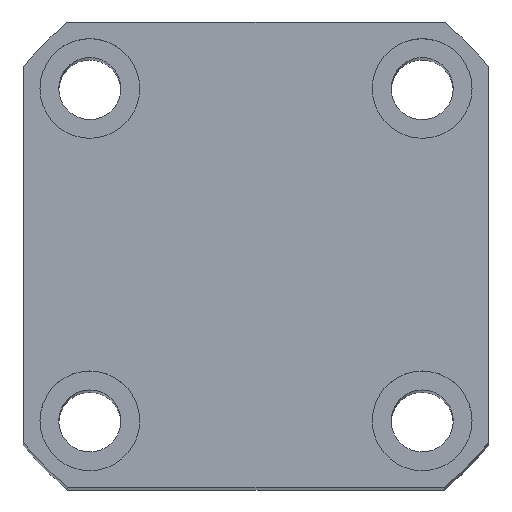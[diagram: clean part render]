
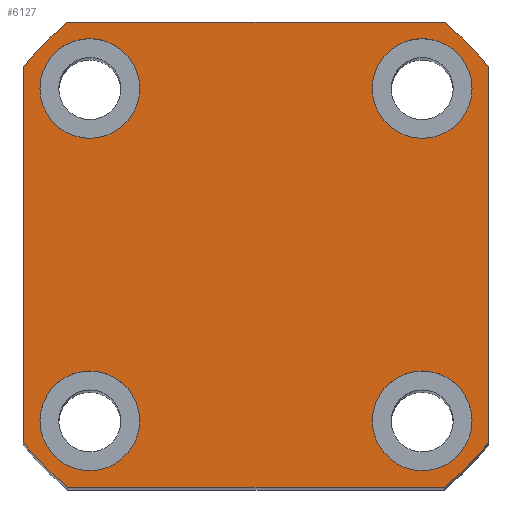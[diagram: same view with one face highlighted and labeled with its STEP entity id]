
A CAD part, top view. The second image highlights one B-rep face of the part: STEP entity #6127.
In plain terms, the highlighted planar face has unit normal (0, 0, 1).
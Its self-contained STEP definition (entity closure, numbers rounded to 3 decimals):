
#198 = DIRECTION ( 'NONE',  ( 0., 0., 1. ) ) ;
#214 = ORIENTED_EDGE ( 'NONE', *, *, #684, .F. ) ;
#254 = EDGE_CURVE ( 'NONE', #4756, #2983, #5963, .T. ) ;
#262 = CARTESIAN_POINT ( 'NONE',  ( -16.971, -21., 138. ) ) ;
#276 = CARTESIAN_POINT ( 'NONE',  ( 21., 21., 138. ) ) ;
#281 = DIRECTION ( 'NONE',  ( 0., 0., 1. ) ) ;
#283 = ORIENTED_EDGE ( 'NONE', *, *, #8207, .T. ) ;
#431 = DIRECTION ( 'NONE',  ( 1., 0., 0. ) ) ;
#552 = VERTEX_POINT ( 'NONE', #715 ) ;
#580 = VERTEX_POINT ( 'NONE', #1783 ) ;
#612 = EDGE_LOOP ( 'NONE', ( #6608, #5303 ) ) ;
#657 = CARTESIAN_POINT ( 'NONE',  ( 0., 0., 138. ) ) ;
#663 = AXIS2_PLACEMENT_3D ( 'NONE', #7666, #2790, #8510 ) ;
#684 = EDGE_CURVE ( 'NONE', #7606, #2746, #6354, .T. ) ;
#715 = CARTESIAN_POINT ( 'NONE',  ( -19.5, -14.998, 138. ) ) ;
#719 = VECTOR ( 'NONE', #1143, 1000. ) ;
#738 = LINE ( 'NONE', #4373, #7275 ) ;
#845 = ORIENTED_EDGE ( 'NONE', *, *, #10413, .T. ) ;
#881 = EDGE_CURVE ( 'NONE', #2983, #5904, #3893, .T. ) ;
#890 = DIRECTION ( 'NONE',  ( 0., 0., 1. ) ) ;
#930 = CARTESIAN_POINT ( 'NONE',  ( 15., -14.998, 138. ) ) ;
#964 = VERTEX_POINT ( 'NONE', #9354 ) ;
#970 = EDGE_CURVE ( 'NONE', #5063, #10012, #7488, .T. ) ;
#991 = DIRECTION ( 'NONE',  ( 1., 0., 0. ) ) ;
#1027 = DIRECTION ( 'NONE',  ( 0., 0., 1. ) ) ;
#1066 = CARTESIAN_POINT ( 'NONE',  ( 0., 0., 138. ) ) ;
#1143 = DIRECTION ( 'NONE',  ( 0., -1., 0. ) ) ;
#1180 = EDGE_CURVE ( 'NONE', #580, #552, #6717, .T. ) ;
#1245 = AXIS2_PLACEMENT_3D ( 'NONE', #2228, #7968, #3089 ) ;
#1483 = DIRECTION ( 'NONE',  ( 1., 0., 0. ) ) ;
#1534 = EDGE_LOOP ( 'NONE', ( #9279, #9903 ) ) ;
#1545 = CARTESIAN_POINT ( 'NONE',  ( -15., -14.998, 138. ) ) ;
#1728 = CARTESIAN_POINT ( 'NONE',  ( -19.5, 15.002, 138. ) ) ;
#1775 = DIRECTION ( 'NONE',  ( 1., 0., 0. ) ) ;
#1783 = CARTESIAN_POINT ( 'NONE',  ( -10.5, -14.998, 138. ) ) ;
#1832 = CIRCLE ( 'NONE', #6885, 4.5 ) ;
#1911 = DIRECTION ( 'NONE',  ( 0., 0., 1. ) ) ;
#1944 = CARTESIAN_POINT ( 'NONE',  ( 21., -16.971, 138. ) ) ;
#1951 = CARTESIAN_POINT ( 'NONE',  ( 15., 15., 138. ) ) ;
#1962 = EDGE_CURVE ( 'NONE', #3785, #964, #738, .T. ) ;
#2014 = EDGE_CURVE ( 'NONE', #9640, #2610, #2683, .T. ) ;
#2051 = CARTESIAN_POINT ( 'NONE',  ( 16.971, -21., 138. ) ) ;
#2089 = FACE_BOUND ( 'NONE', #10204, .T. ) ;
#2228 = CARTESIAN_POINT ( 'NONE',  ( -15., 15.002, 138. ) ) ;
#2382 = DIRECTION ( 'NONE',  ( 1., 0., 0. ) ) ;
#2431 = AXIS2_PLACEMENT_3D ( 'NONE', #1545, #3828, #5696 ) ;
#2441 = DIRECTION ( 'NONE',  ( 1., 0., 0. ) ) ;
#2467 = DIRECTION ( 'NONE',  ( 0., 0., 1. ) ) ;
#2519 = CARTESIAN_POINT ( 'NONE',  ( 0., 0., 138. ) ) ;
#2532 = CIRCLE ( 'NONE', #2533, 4.5 ) ;
#2533 = AXIS2_PLACEMENT_3D ( 'NONE', #5081, #198, #5924 ) ;
#2610 = VERTEX_POINT ( 'NONE', #262 ) ;
#2632 = CIRCLE ( 'NONE', #1245, 4.5 ) ;
#2683 = CIRCLE ( 'NONE', #6633, 27. ) ;
#2713 = AXIS2_PLACEMENT_3D ( 'NONE', #657, #6397, #1483 ) ;
#2739 = LINE ( 'NONE', #9840, #7687 ) ;
#2746 = VERTEX_POINT ( 'NONE', #5909 ) ;
#2790 = DIRECTION ( 'NONE',  ( 0., 0., 1. ) ) ;
#2983 = VERTEX_POINT ( 'NONE', #1944 ) ;
#3089 = DIRECTION ( 'NONE',  ( 1., 0., 0. ) ) ;
#3265 = CARTESIAN_POINT ( 'NONE',  ( 19.5, 15., 138. ) ) ;
#3503 = DIRECTION ( 'NONE',  ( 0., 1., 0. ) ) ;
#3549 = CIRCLE ( 'NONE', #2713, 27. ) ;
#3652 = EDGE_CURVE ( 'NONE', #2746, #7606, #2532, .T. ) ;
#3691 = EDGE_CURVE ( 'NONE', #4900, #8283, #8569, .T. ) ;
#3785 = VERTEX_POINT ( 'NONE', #4470 ) ;
#3828 = DIRECTION ( 'NONE',  ( 0., 0., 1. ) ) ;
#3857 = CARTESIAN_POINT ( 'NONE',  ( 0., 0., 138. ) ) ;
#3887 = EDGE_LOOP ( 'NONE', ( #7917, #845, #7461, #7054, #4253, #8926, #283, #9384 ) ) ;
#3893 = LINE ( 'NONE', #276, #7768 ) ;
#3907 = CARTESIAN_POINT ( 'NONE',  ( -21., 16.971, 138. ) ) ;
#3916 = EDGE_CURVE ( 'NONE', #552, #580, #7790, .T. ) ;
#3987 = DIRECTION ( 'NONE',  ( -1., 0., 0. ) ) ;
#4039 = EDGE_CURVE ( 'NONE', #10427, #9640, #5058, .T. ) ;
#4253 = ORIENTED_EDGE ( 'NONE', *, *, #4039, .T. ) ;
#4285 = DIRECTION ( 'NONE',  ( 0., 0., 1. ) ) ;
#4373 = CARTESIAN_POINT ( 'NONE',  ( -21., 21., 138. ) ) ;
#4470 = CARTESIAN_POINT ( 'NONE',  ( 16.971, 21., 138. ) ) ;
#4513 = FACE_BOUND ( 'NONE', #1534, .T. ) ;
#4659 = CARTESIAN_POINT ( 'NONE',  ( -10.5, 15.002, 138. ) ) ;
#4702 = AXIS2_PLACEMENT_3D ( 'NONE', #9237, #4285, #10047 ) ;
#4719 = DIRECTION ( 'NONE',  ( 0., 0., 1. ) ) ;
#4756 = VERTEX_POINT ( 'NONE', #2051 ) ;
#4900 = VERTEX_POINT ( 'NONE', #4659 ) ;
#5058 = LINE ( 'NONE', #10206, #719 ) ;
#5063 = VERTEX_POINT ( 'NONE', #9735 ) ;
#5081 = CARTESIAN_POINT ( 'NONE',  ( 15., 15., 138. ) ) ;
#5174 = CARTESIAN_POINT ( 'NONE',  ( 15., -14.998, 138. ) ) ;
#5303 = ORIENTED_EDGE ( 'NONE', *, *, #6046, .F. ) ;
#5321 = EDGE_LOOP ( 'NONE', ( #9950, #8793 ) ) ;
#5548 = DIRECTION ( 'NONE',  ( 1., 0., 0. ) ) ;
#5696 = DIRECTION ( 'NONE',  ( 1., 0., 0. ) ) ;
#5904 = VERTEX_POINT ( 'NONE', #10184 ) ;
#5909 = CARTESIAN_POINT ( 'NONE',  ( 10.5, 15., 138. ) ) ;
#5924 = DIRECTION ( 'NONE',  ( 1., 0., 0. ) ) ;
#5963 = CIRCLE ( 'NONE', #6347, 27. ) ;
#6018 = DIRECTION ( 'NONE',  ( 1., 0., 0. ) ) ;
#6046 = EDGE_CURVE ( 'NONE', #8283, #4900, #2632, .T. ) ;
#6127 = ADVANCED_FACE ( 'NONE', ( #8668, #8918, #4513, #2089, #10561 ), #8014, .T. ) ;
#6193 = AXIS2_PLACEMENT_3D ( 'NONE', #3857, #10463, #5548 ) ;
#6292 = CARTESIAN_POINT ( 'NONE',  ( 10.5, -14.998, 138. ) ) ;
#6347 = AXIS2_PLACEMENT_3D ( 'NONE', #2519, #2467, #2441 ) ;
#6354 = CIRCLE ( 'NONE', #7797, 4.5 ) ;
#6397 = DIRECTION ( 'NONE',  ( 0., 0., 1. ) ) ;
#6479 = AXIS2_PLACEMENT_3D ( 'NONE', #930, #890, #431 ) ;
#6608 = ORIENTED_EDGE ( 'NONE', *, *, #3691, .F. ) ;
#6633 = AXIS2_PLACEMENT_3D ( 'NONE', #1066, #1027, #991 ) ;
#6717 = CIRCLE ( 'NONE', #2431, 4.5 ) ;
#6885 = AXIS2_PLACEMENT_3D ( 'NONE', #5174, #281, #6018 ) ;
#7054 = ORIENTED_EDGE ( 'NONE', *, *, #8451, .T. ) ;
#7132 = EDGE_CURVE ( 'NONE', #10012, #5063, #1832, .T. ) ;
#7164 = AXIS2_PLACEMENT_3D ( 'NONE', #9656, #4719, #10468 ) ;
#7275 = VECTOR ( 'NONE', #3987, 1000. ) ;
#7461 = ORIENTED_EDGE ( 'NONE', *, *, #1962, .T. ) ;
#7488 = CIRCLE ( 'NONE', #6479, 4.5 ) ;
#7547 = CARTESIAN_POINT ( 'NONE',  ( -21., -16.971, 138. ) ) ;
#7606 = VERTEX_POINT ( 'NONE', #3265 ) ;
#7666 = CARTESIAN_POINT ( 'NONE',  ( -15., -14.998, 138. ) ) ;
#7687 = VECTOR ( 'NONE', #2382, 1000. ) ;
#7768 = VECTOR ( 'NONE', #3503, 1000. ) ;
#7790 = CIRCLE ( 'NONE', #663, 4.5 ) ;
#7797 = AXIS2_PLACEMENT_3D ( 'NONE', #1951, #1911, #1775 ) ;
#7917 = ORIENTED_EDGE ( 'NONE', *, *, #881, .T. ) ;
#7968 = DIRECTION ( 'NONE',  ( 0., 0., 1. ) ) ;
#8014 = PLANE ( 'NONE',  #6193 ) ;
#8207 = EDGE_CURVE ( 'NONE', #2610, #4756, #2739, .T. ) ;
#8283 = VERTEX_POINT ( 'NONE', #1728 ) ;
#8451 = EDGE_CURVE ( 'NONE', #964, #10427, #10495, .T. ) ;
#8510 = DIRECTION ( 'NONE',  ( 1., 0., 0. ) ) ;
#8569 = CIRCLE ( 'NONE', #4702, 4.5 ) ;
#8668 = FACE_BOUND ( 'NONE', #612, .T. ) ;
#8793 = ORIENTED_EDGE ( 'NONE', *, *, #3916, .F. ) ;
#8902 = ORIENTED_EDGE ( 'NONE', *, *, #3652, .F. ) ;
#8918 = FACE_BOUND ( 'NONE', #5321, .T. ) ;
#8926 = ORIENTED_EDGE ( 'NONE', *, *, #2014, .T. ) ;
#9237 = CARTESIAN_POINT ( 'NONE',  ( -15., 15.002, 138. ) ) ;
#9279 = ORIENTED_EDGE ( 'NONE', *, *, #970, .F. ) ;
#9354 = CARTESIAN_POINT ( 'NONE',  ( -16.971, 21., 138. ) ) ;
#9384 = ORIENTED_EDGE ( 'NONE', *, *, #254, .T. ) ;
#9640 = VERTEX_POINT ( 'NONE', #7547 ) ;
#9656 = CARTESIAN_POINT ( 'NONE',  ( 0., 0., 138. ) ) ;
#9735 = CARTESIAN_POINT ( 'NONE',  ( 19.5, -14.998, 138. ) ) ;
#9840 = CARTESIAN_POINT ( 'NONE',  ( -21., -21., 138. ) ) ;
#9903 = ORIENTED_EDGE ( 'NONE', *, *, #7132, .F. ) ;
#9950 = ORIENTED_EDGE ( 'NONE', *, *, #1180, .F. ) ;
#10012 = VERTEX_POINT ( 'NONE', #6292 ) ;
#10047 = DIRECTION ( 'NONE',  ( 1., 0., 0. ) ) ;
#10184 = CARTESIAN_POINT ( 'NONE',  ( 21., 16.971, 138. ) ) ;
#10204 = EDGE_LOOP ( 'NONE', ( #214, #8902 ) ) ;
#10206 = CARTESIAN_POINT ( 'NONE',  ( -21., 21., 138. ) ) ;
#10413 = EDGE_CURVE ( 'NONE', #5904, #3785, #3549, .T. ) ;
#10427 = VERTEX_POINT ( 'NONE', #3907 ) ;
#10463 = DIRECTION ( 'NONE',  ( 0., 0., 1. ) ) ;
#10468 = DIRECTION ( 'NONE',  ( 1., 0., 0. ) ) ;
#10495 = CIRCLE ( 'NONE', #7164, 27. ) ;
#10561 = FACE_OUTER_BOUND ( 'NONE', #3887, .T. ) ;
